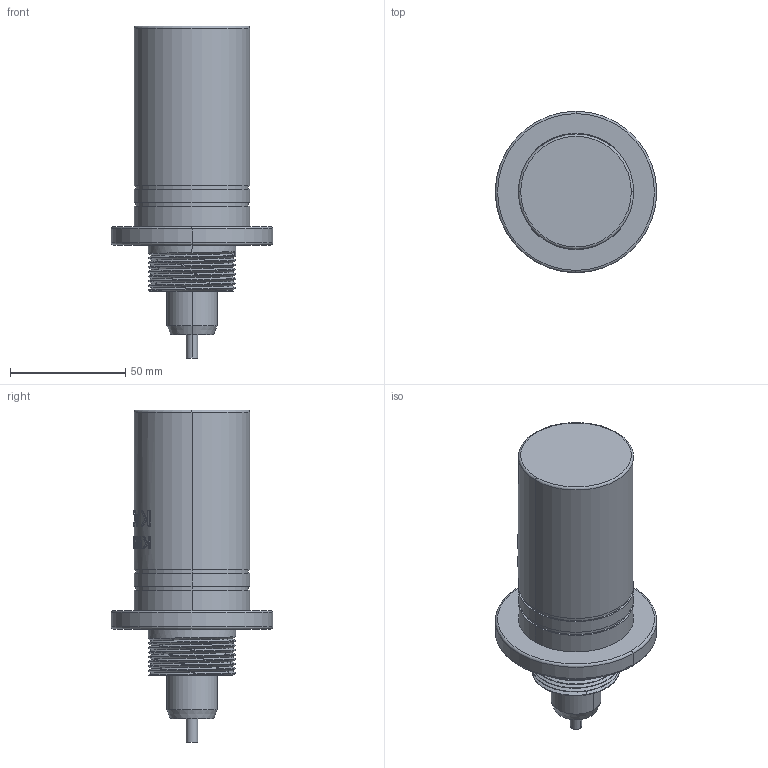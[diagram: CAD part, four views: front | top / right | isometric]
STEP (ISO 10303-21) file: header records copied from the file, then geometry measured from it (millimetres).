
FILE_DESCRIPTION((''),'2;1');
FILE_NAME('KWS-W50','2025-12-24T15:56:35',('28740194'),(''),'CREO PARAMETRIC BY PTC INC, 2024063','CREO PARAMETRIC BY PTC INC, 2024063','');
FILE_SCHEMA(('CONFIG_CONTROL_DESIGN'));
Length unit declared in the file: millimetre
Products named in the file (1): KWS-W50
Bounding box: 70 x 70 x 143.98 mm (x, y, z)
Volume: 229661.9 mm3; surface area: 28487 mm2
Topology: 1 solids, 1 shells, 389 faces, 1080 edges, 716 vertices
Faces by surface type: bspline 322, cylinder 48, plane 11, torus 6, cone 2
Entity records: 19832 total; most frequent: CARTESIAN_POINT 12198, ORIENTED_EDGE 2160, EDGE_CURVE 1080, B_SPLINE_CURVE_WITH_KNOTS 793, VERTEX_POINT 716, DIRECTION 596, EDGE_LOOP 412, FACE_OUTER_BOUND 389
